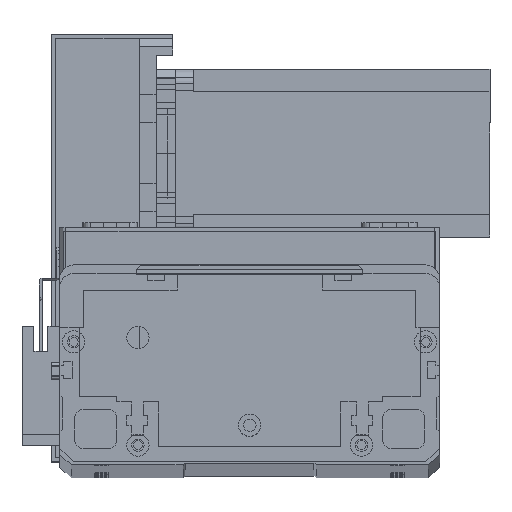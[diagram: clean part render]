
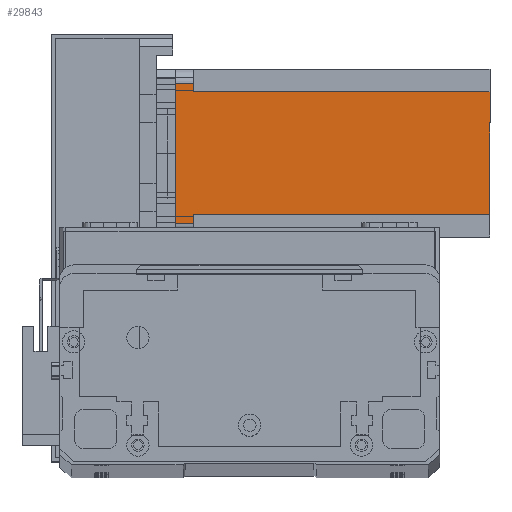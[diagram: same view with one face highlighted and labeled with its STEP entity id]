
A CAD part, top view. The second image highlights one B-rep face of the part: STEP entity #29843.
In plain terms, the highlighted planar face has unit normal (0, 0, 1) as drawn and (0, -1, 0) by its records, which use the part's own axes.
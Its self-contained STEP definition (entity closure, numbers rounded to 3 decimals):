
#1013 = ORIENTED_EDGE ( 'NONE', *, *, #7082, .T. ) ;
#1089 = DIRECTION ( 'NONE',  ( 1., 0., 0. ) ) ;
#1247 = LINE ( 'NONE', #25725, #19699 ) ;
#1890 = EDGE_CURVE ( 'NONE', #13290, #28566, #16589, .T. ) ;
#2014 = VERTEX_POINT ( 'NONE', #27066 ) ;
#2143 = ORIENTED_EDGE ( 'NONE', *, *, #22543, .T. ) ;
#2404 = CARTESIAN_POINT ( 'NONE',  ( 52., 0., -6.5 ) ) ;
#3317 = ORIENTED_EDGE ( 'NONE', *, *, #1890, .F. ) ;
#3599 = CARTESIAN_POINT ( 'NONE',  ( 55., 0., 0. ) ) ;
#3834 = VECTOR ( 'NONE', #24228, 1000. ) ;
#5067 = CARTESIAN_POINT ( 'NONE',  ( 55., 0., -112.5 ) ) ;
#5535 = VECTOR ( 'NONE', #18236, 1000. ) ;
#5658 = ORIENTED_EDGE ( 'NONE', *, *, #14108, .T. ) ;
#7082 = EDGE_CURVE ( 'NONE', #13086, #25556, #29999, .T. ) ;
#7083 = DIRECTION ( 'NONE',  ( 0., 0., 1. ) ) ;
#7149 = CARTESIAN_POINT ( 'NONE',  ( 8., 0., -112.5 ) ) ;
#8006 = ORIENTED_EDGE ( 'NONE', *, *, #12272, .F. ) ;
#8056 = DIRECTION ( 'NONE',  ( 0., 0., -1. ) ) ;
#8164 = CARTESIAN_POINT ( 'NONE',  ( 5., 0., -112.5 ) ) ;
#8188 = LINE ( 'NONE', #7149, #13809 ) ;
#8670 = CARTESIAN_POINT ( 'NONE',  ( 0., 0., -112.5 ) ) ;
#10242 = ORIENTED_EDGE ( 'NONE', *, *, #11536, .F. ) ;
#10643 = ORIENTED_EDGE ( 'NONE', *, *, #19151, .T. ) ;
#11528 = VECTOR ( 'NONE', #11565, 1000. ) ;
#11536 = EDGE_CURVE ( 'NONE', #23127, #14886, #8188, .T. ) ;
#11565 = DIRECTION ( 'NONE',  ( 0., 0., -1. ) ) ;
#11950 = LINE ( 'NONE', #8670, #5535 ) ;
#12272 = EDGE_CURVE ( 'NONE', #14886, #2014, #1247, .T. ) ;
#12711 = ORIENTED_EDGE ( 'NONE', *, *, #20448, .F. ) ;
#13086 = VERTEX_POINT ( 'NONE', #26322 ) ;
#13290 = VERTEX_POINT ( 'NONE', #22712 ) ;
#13393 = CARTESIAN_POINT ( 'NONE',  ( 0., 0., -112.5 ) ) ;
#13701 = EDGE_LOOP ( 'NONE', ( #1013, #2143, #3317, #5658, #8006, #10242, #10643, #12711 ) ) ;
#13809 = VECTOR ( 'NONE', #7083, 1000. ) ;
#14108 = EDGE_CURVE ( 'NONE', #13290, #2014, #29158, .T. ) ;
#14866 = AXIS2_PLACEMENT_3D ( 'NONE', #13393, #29831, #15754 ) ;
#14886 = VERTEX_POINT ( 'NONE', #15542 ) ;
#15542 = CARTESIAN_POINT ( 'NONE',  ( 8., 0., -6.5 ) ) ;
#15754 = DIRECTION ( 'NONE',  ( 0., 0., -1. ) ) ;
#16531 = CARTESIAN_POINT ( 'NONE',  ( 55., 0., -6.5 ) ) ;
#16589 = LINE ( 'NONE', #23972, #22163 ) ;
#18236 = DIRECTION ( 'NONE',  ( 1., 0., 0. ) ) ;
#19151 = EDGE_CURVE ( 'NONE', #23127, #30666, #11950, .T. ) ;
#19699 = VECTOR ( 'NONE', #27273, 1000. ) ;
#20448 = EDGE_CURVE ( 'NONE', #13086, #30666, #29582, .T. ) ;
#22163 = VECTOR ( 'NONE', #23865, 1000. ) ;
#22543 = EDGE_CURVE ( 'NONE', #25556, #28566, #29156, .T. ) ;
#22712 = CARTESIAN_POINT ( 'NONE',  ( 5., 0., 0. ) ) ;
#22995 = VECTOR ( 'NONE', #8056, 1000. ) ;
#23127 = VERTEX_POINT ( 'NONE', #24292 ) ;
#23865 = DIRECTION ( 'NONE',  ( 1., 0., 0. ) ) ;
#23869 = VECTOR ( 'NONE', #1089, 1000. ) ;
#23972 = CARTESIAN_POINT ( 'NONE',  ( 0., 0., 0. ) ) ;
#24228 = DIRECTION ( 'NONE',  ( 0., 0., 1. ) ) ;
#24292 = CARTESIAN_POINT ( 'NONE',  ( 8., 0., -112.5 ) ) ;
#25556 = VERTEX_POINT ( 'NONE', #16531 ) ;
#25725 = CARTESIAN_POINT ( 'NONE',  ( 8., 0., -6.5 ) ) ;
#26322 = CARTESIAN_POINT ( 'NONE',  ( 52., 0., -6.5 ) ) ;
#26876 = FACE_OUTER_BOUND ( 'NONE', #13701, .T. ) ;
#27066 = CARTESIAN_POINT ( 'NONE',  ( 5., 0., -6.5 ) ) ;
#27273 = DIRECTION ( 'NONE',  ( -1., 0., 0. ) ) ;
#28080 = CARTESIAN_POINT ( 'NONE',  ( 52., 0., -112.5 ) ) ;
#28276 = CARTESIAN_POINT ( 'NONE',  ( 52., 0., -112.5 ) ) ;
#28566 = VERTEX_POINT ( 'NONE', #3599 ) ;
#29156 = LINE ( 'NONE', #5067, #3834 ) ;
#29158 = LINE ( 'NONE', #8164, #22995 ) ;
#29582 = LINE ( 'NONE', #28080, #11528 ) ;
#29636 = PLANE ( 'NONE',  #14866 ) ;
#29831 = DIRECTION ( 'NONE',  ( 0., -1., 0. ) ) ;
#29843 = ADVANCED_FACE ( 'NONE', ( #26876 ), #29636, .T. ) ;
#29999 = LINE ( 'NONE', #2404, #23869 ) ;
#30666 = VERTEX_POINT ( 'NONE', #28276 ) ;
